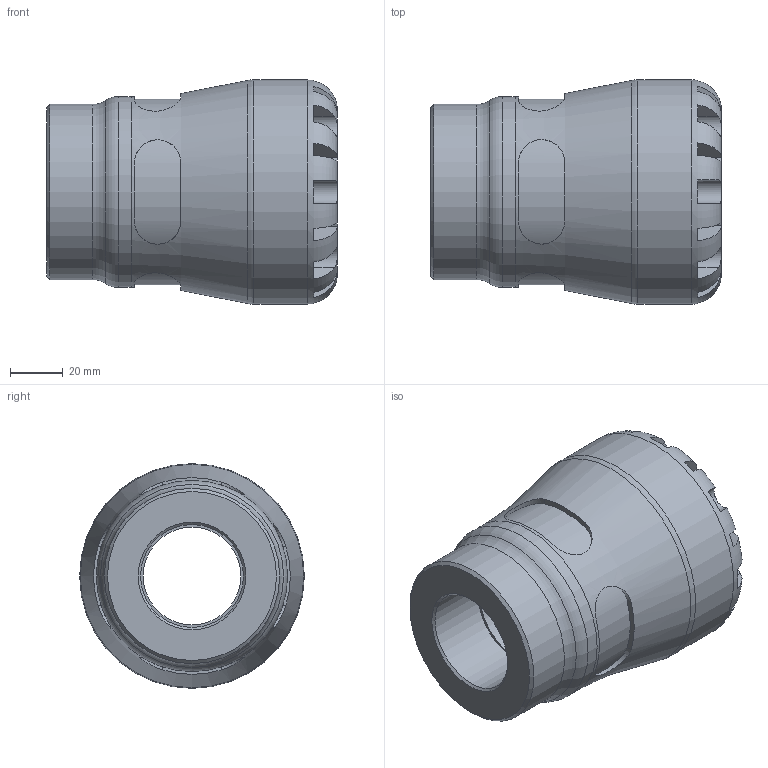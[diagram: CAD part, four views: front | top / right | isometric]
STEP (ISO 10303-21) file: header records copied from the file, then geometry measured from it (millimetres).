
FILE_DESCRIPTION(/* description */ ('PLASSON FEMALE ADAPTOR 50X1.1/4" SERIES 1'),/* implementation_level */ '2;1');
FILE_NAME(/* name */ 'C:\Dropbox\KIMPROJECTS-Inventor\99-16-3568-Processing\1003\100300050013_190300050013.ipt.step',/* time_stamp */ '2017-01-22T09:49:24+02:00',/* author */ ('KIM'),/* organization */ (''),/* preprocessor_version */ 'ST-DEVELOPER v15.6',/* originating_system */ 'Autodesk Inventor 2015',/* authorisation */ '');
FILE_SCHEMA (('AUTOMOTIVE_DESIGN { 1 0 10303 214 3 1 1 }'));
Length unit declared in the file: millimetre
Products named in the file (1): 100300050013_190300050013
Bounding box: 110 x 85 x 85 mm (x, y, z)
Volume: 302433.5 mm3; surface area: 51260.3 mm2
Topology: 1 solids, 1 shells, 104 faces, 255 edges, 159 vertices
Faces by surface type: plane 61, cylinder 35, torus 5, cone 3
Full cylindrical faces by diameter (mm): 37.004 x1, 38.952 x1, 41.667 x1, 50 x1, 66.3 x1, 72.25 x1, 85 x1
Entity records: 3882 total; most frequent: CARTESIAN_POINT 1443, DIRECTION 472, ORIENTED_EDGE 470, EDGE_CURVE 235, AXIS2_PLACEMENT_3D 196, VERTEX_POINT 155, EDGE_LOOP 128, STYLED_ITEM 105
